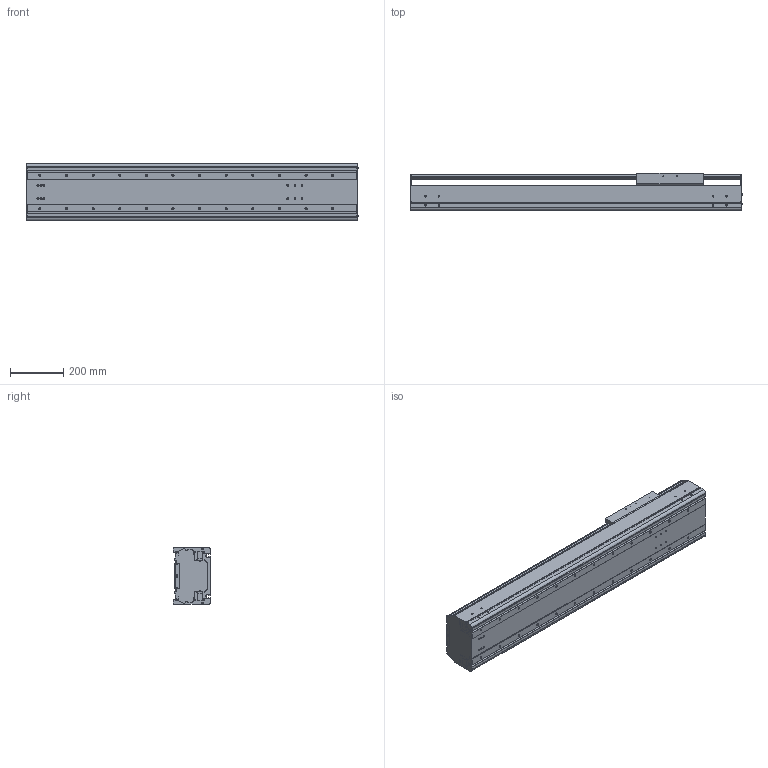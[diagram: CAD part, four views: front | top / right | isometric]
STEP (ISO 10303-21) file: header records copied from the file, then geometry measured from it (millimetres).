
FILE_DESCRIPTION((''),'2;1');
FILE_NAME('BE60G-ST-M_B-80_IGS_PRT','2017-06-18T',(' '),(''),'PRO/ENGINEER BY PARAMETRIC TECHNOLOGY CORPORATION, 2015030','PRO/ENGINEER BY PARAMETRIC TECHNOLOGY CORPORATION, 2015030','');
FILE_SCHEMA(('CONFIG_CONTROL_DESIGN'));
Length unit declared in the file: millimetre
Products named in the file (1): BE60G-ST-M_B-80_IGS_PRT
Bounding box: 1247.4 x 140 x 214 mm (x, y, z)
Volume: 10118095.3 mm3; surface area: 2696119.8 mm2
Topology: 2 solids, 132 shells, 1512 faces, 4206 edges, 2760 vertices
Faces by surface type: cylinder 762, plane 602, cone 100, sphere 24, torus 24
Entity records: 50173 total; most frequent: CARTESIAN_POINT 11117, DIRECTION 8248, ORIENTED_EDGE 7700, EDGE_CURVE 4106, AXIS2_PLACEMENT_3D 3063, VERTEX_POINT 2758, VECTOR 2122, LINE 2122
